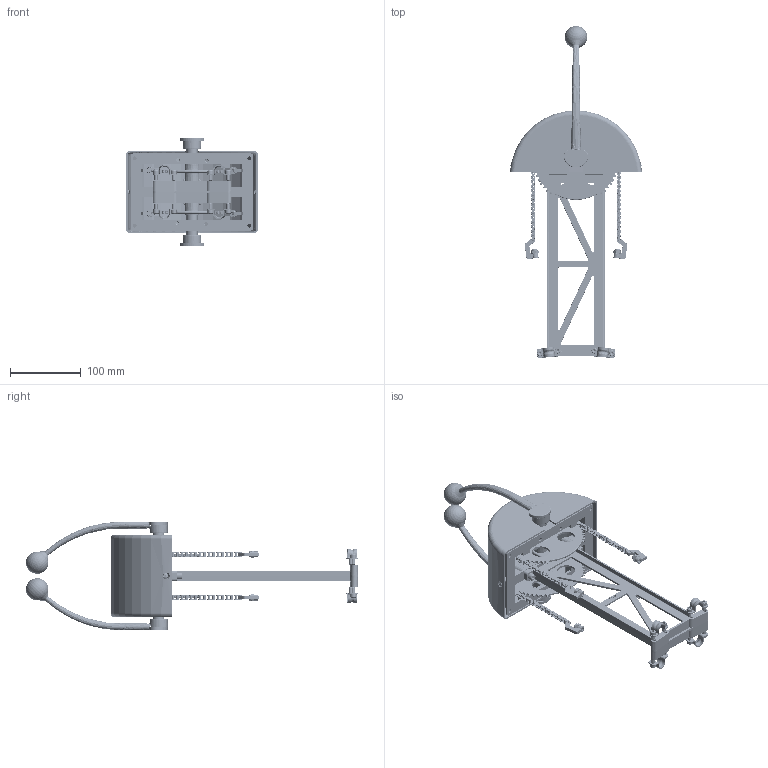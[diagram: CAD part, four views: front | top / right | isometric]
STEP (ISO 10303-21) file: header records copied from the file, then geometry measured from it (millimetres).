
FILE_DESCRIPTION (( 'STEP AP214' ), '1' );
FILE_NAME ('2094-xU.STEP', '2026-06-10T16:23:38', ( '' ), ( '' ), 'SwSTEP 2.0', 'SolidWorks 2023', '' );
FILE_SCHEMA (( 'AUTOMOTIVE_DESIGN' ));
Length unit declared in the file: inch
Products named in the file (1): 2094-xU
Bounding box: 186.26 x 469.05 x 153.42 mm (x, y, z)
Surface area: 295631.5 mm2 (no closed solid volume)
Topology: 0 solids, 448 shells, 3513 faces, 11705 edges, 8364 vertices
Faces by surface type: cylinder 1386, plane 900, torus 803, bspline 223, cone 193, sphere 8
Entity records: 191276 total; most frequent: CARTESIAN_POINT 45139, DIRECTION 23063, ORIENTED_EDGE 17674, EDGE_CURVE 11668, AXIS2_PLACEMENT_3D 9993, VERTEX_POINT 8358, CIRCLE 6702, EDGE_LOOP 4133
